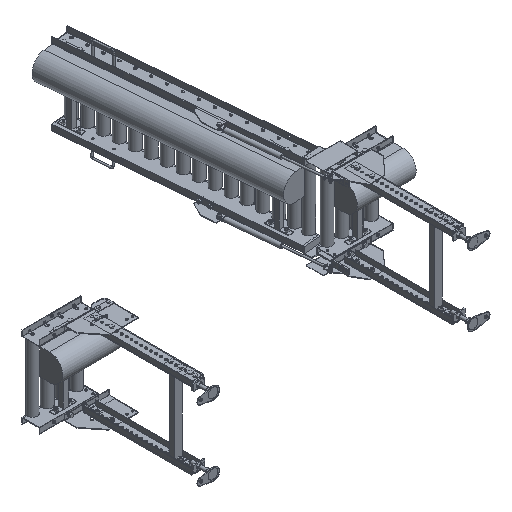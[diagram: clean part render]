
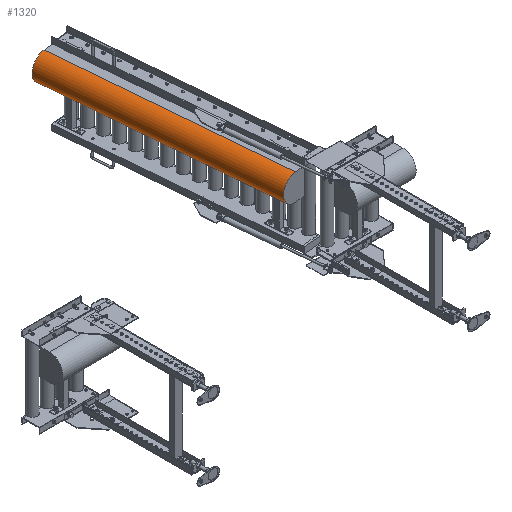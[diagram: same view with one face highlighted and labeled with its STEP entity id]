
A CAD part, isometric view. The second image highlights one B-rep face of the part: STEP entity #1320.
In plain terms, the highlighted cylindrical face has radius 66.89 mm (diameter 133.78 mm), a partial arc.
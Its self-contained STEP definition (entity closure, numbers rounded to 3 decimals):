
#1320=ADVANCED_FACE('',(#5755),#5754,.T.);
#5754=CYLINDRICAL_SURFACE('',#32102,66.89);
#5755=FACE_OUTER_BOUND('',#32103,.T.);
#32099=CARTESIAN_POINT('',(-63.444,-158.438,112.61));
#32100=DIRECTION('',(0.087,-0.996,0.));
#32101=DIRECTION('',(0.,0.,-1.));
#32102=AXIS2_PLACEMENT_3D('',#32099,#32100,#32101);
#32103=EDGE_LOOP('',(#46761,#46762,#46763,#46764));
#46761=ORIENTED_EDGE('',*,*,#59740,.F.);
#46762=ORIENTED_EDGE('',*,*,#59741,.T.);
#46763=ORIENTED_EDGE('',*,*,#59721,.T.);
#46764=ORIENTED_EDGE('',*,*,#59739,.F.);
#59721=EDGE_CURVE('',#70472,#70486,#70493,.T.);
#59739=EDGE_CURVE('',#70608,#70486,#70615,.T.);
#59740=EDGE_CURVE('',#70621,#70608,#70622,.T.);
#59741=EDGE_CURVE('',#70621,#70472,#70628,.T.);
#70472=VERTEX_POINT('',#113501);
#70486=VERTEX_POINT('',#113509);
#70493=CIRCLE('',#113516,66.89);
#70608=VERTEX_POINT('',#113578);
#70615=LINE('',#113582,#113583);
#70621=VERTEX_POINT('',#113585);
#70622=CIRCLE('',#113589,66.89);
#70628=LINE('',#113590,#113591);
#113501=CARTESIAN_POINT('',(-181.863,1196.047,179.5));
#113509=CARTESIAN_POINT('',(-181.863,1196.047,45.72));
#113513=CARTESIAN_POINT('',(-181.863,1196.047,112.61));
#113514=DIRECTION('',(0.087,-0.996,0.));
#113515=DIRECTION('',(0.,0.,-1.));
#113516=AXIS2_PLACEMENT_3D('',#113513,#113514,#113515);
#113578=CARTESIAN_POINT('',(-78.917,18.539,45.72));
#113582=CARTESIAN_POINT('',(-78.917,18.539,45.72));
#113583=VECTOR('',#113584,1182.);
#113584=DIRECTION('',(-0.087,0.996,0.));
#113585=CARTESIAN_POINT('',(-78.917,18.539,179.5));
#113586=CARTESIAN_POINT('',(-78.917,18.539,112.61));
#113587=DIRECTION('',(0.087,-0.996,0.));
#113588=DIRECTION('',(0.,0.,1.));
#113589=AXIS2_PLACEMENT_3D('',#113586,#113587,#113588);
#113590=CARTESIAN_POINT('',(-78.917,18.539,179.5));
#113591=VECTOR('',#113592,1182.);
#113592=DIRECTION('',(-0.087,0.996,0.));
